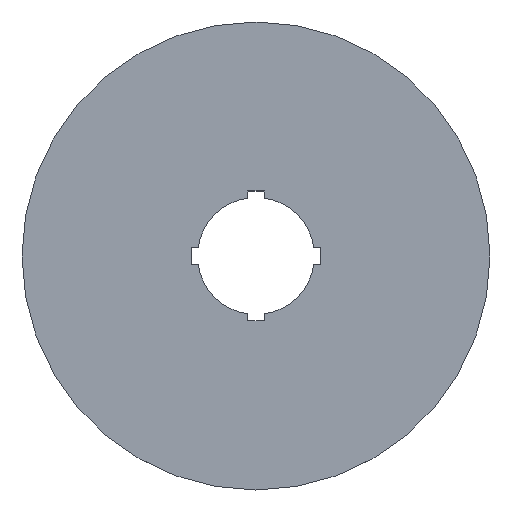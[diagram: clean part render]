
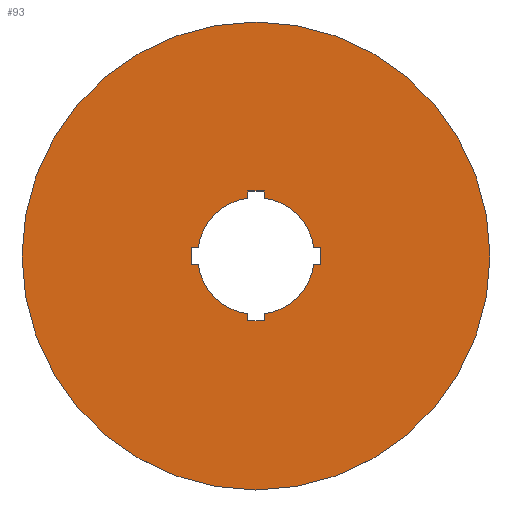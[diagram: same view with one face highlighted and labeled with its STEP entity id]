
A CAD part, top view. The second image highlights one B-rep face of the part: STEP entity #93.
In plain terms, the highlighted planar face has unit normal (0, 0, 1).
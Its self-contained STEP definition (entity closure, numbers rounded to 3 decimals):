
#93 = ADVANCED_FACE( '', ( #132, #133 ), #134, .T. );
#132 = FACE_OUTER_BOUND( '', #174, .T. );
#133 = FACE_BOUND( '', #175, .T. );
#134 = PLANE( '', #176 );
#174 = EDGE_LOOP( '', ( #306, #307 ) );
#175 = EDGE_LOOP( '', ( #308, #309, #310, #311, #312, #313, #314, #315, #316, #317, #318, #319, #320, #321, #322, #323 ) );
#176 = AXIS2_PLACEMENT_3D( '', #324, #325, #326 );
#306 = ORIENTED_EDGE( '', *, *, #400, .F. );
#307 = ORIENTED_EDGE( '', *, *, #351, .F. );
#308 = ORIENTED_EDGE( '', *, *, #352, .F. );
#309 = ORIENTED_EDGE( '', *, *, #398, .F. );
#310 = ORIENTED_EDGE( '', *, *, #395, .F. );
#311 = ORIENTED_EDGE( '', *, *, #392, .F. );
#312 = ORIENTED_EDGE( '', *, *, #389, .F. );
#313 = ORIENTED_EDGE( '', *, *, #386, .F. );
#314 = ORIENTED_EDGE( '', *, *, #383, .F. );
#315 = ORIENTED_EDGE( '', *, *, #380, .F. );
#316 = ORIENTED_EDGE( '', *, *, #377, .F. );
#317 = ORIENTED_EDGE( '', *, *, #374, .F. );
#318 = ORIENTED_EDGE( '', *, *, #371, .F. );
#319 = ORIENTED_EDGE( '', *, *, #368, .F. );
#320 = ORIENTED_EDGE( '', *, *, #365, .F. );
#321 = ORIENTED_EDGE( '', *, *, #362, .F. );
#322 = ORIENTED_EDGE( '', *, *, #359, .F. );
#323 = ORIENTED_EDGE( '', *, *, #356, .F. );
#324 = CARTESIAN_POINT( '', ( 0., 0., 0.8 ) );
#325 = DIRECTION( '', ( 0., 0., 1. ) );
#326 = DIRECTION( '', ( 1., 0., 0. ) );
#351 = EDGE_CURVE( '', #407, #403, #409, .T. );
#352 = EDGE_CURVE( '', #410, #411, #412, .T. );
#356 = EDGE_CURVE( '', #411, #418, #419, .T. );
#359 = EDGE_CURVE( '', #418, #423, #424, .T. );
#362 = EDGE_CURVE( '', #423, #428, #429, .T. );
#365 = EDGE_CURVE( '', #428, #433, #434, .T. );
#368 = EDGE_CURVE( '', #433, #438, #439, .T. );
#371 = EDGE_CURVE( '', #438, #443, #444, .T. );
#374 = EDGE_CURVE( '', #443, #448, #449, .T. );
#377 = EDGE_CURVE( '', #448, #453, #454, .T. );
#380 = EDGE_CURVE( '', #453, #458, #459, .T. );
#383 = EDGE_CURVE( '', #458, #463, #464, .T. );
#386 = EDGE_CURVE( '', #463, #468, #469, .T. );
#389 = EDGE_CURVE( '', #468, #473, #474, .T. );
#392 = EDGE_CURVE( '', #473, #478, #479, .T. );
#395 = EDGE_CURVE( '', #478, #483, #484, .T. );
#398 = EDGE_CURVE( '', #483, #410, #488, .T. );
#400 = EDGE_CURVE( '', #403, #407, #490, .T. );
#403 = VERTEX_POINT( '', #493 );
#407 = VERTEX_POINT( '', #498 );
#409 = CIRCLE( '', #501, 45. );
#410 = VERTEX_POINT( '', #502 );
#411 = VERTEX_POINT( '', #503 );
#412 = LINE( '', #504, #505 );
#418 = VERTEX_POINT( '', #514 );
#419 = CIRCLE( '', #515, 11.25 );
#423 = VERTEX_POINT( '', #520 );
#424 = LINE( '', #521, #522 );
#428 = VERTEX_POINT( '', #528 );
#429 = LINE( '', #529, #530 );
#433 = VERTEX_POINT( '', #536 );
#434 = LINE( '', #537, #538 );
#438 = VERTEX_POINT( '', #544 );
#439 = CIRCLE( '', #545, 11.25 );
#443 = VERTEX_POINT( '', #550 );
#444 = LINE( '', #551, #552 );
#448 = VERTEX_POINT( '', #558 );
#449 = LINE( '', #559, #560 );
#453 = VERTEX_POINT( '', #566 );
#454 = LINE( '', #567, #568 );
#458 = VERTEX_POINT( '', #574 );
#459 = CIRCLE( '', #575, 11.25 );
#463 = VERTEX_POINT( '', #580 );
#464 = LINE( '', #581, #582 );
#468 = VERTEX_POINT( '', #588 );
#469 = LINE( '', #589, #590 );
#473 = VERTEX_POINT( '', #596 );
#474 = LINE( '', #597, #598 );
#478 = VERTEX_POINT( '', #604 );
#479 = CIRCLE( '', #605, 11.25 );
#483 = VERTEX_POINT( '', #610 );
#484 = LINE( '', #611, #612 );
#488 = LINE( '', #618, #619 );
#490 = CIRCLE( '', #622, 45. );
#493 = CARTESIAN_POINT( '', ( 45., 0., 0.8 ) );
#498 = CARTESIAN_POINT( '', ( -45., 0., 0.8 ) );
#501 = AXIS2_PLACEMENT_3D( '', #629, #630, #631 );
#502 = CARTESIAN_POINT( '', ( -12.5, -1.6, 0.8 ) );
#503 = CARTESIAN_POINT( '', ( -11.136, -1.6, 0.8 ) );
#504 = CARTESIAN_POINT( '', ( -12.5, -1.6, 0.8 ) );
#505 = VECTOR( '', #632, 1. );
#514 = CARTESIAN_POINT( '', ( -1.6, -11.136, 0.8 ) );
#515 = AXIS2_PLACEMENT_3D( '', #636, #637, #638 );
#520 = CARTESIAN_POINT( '', ( -1.6, -12.5, 0.8 ) );
#521 = CARTESIAN_POINT( '', ( -1.6, -11.136, 0.8 ) );
#522 = VECTOR( '', #643, 1. );
#528 = CARTESIAN_POINT( '', ( 1.6, -12.5, 0.8 ) );
#529 = CARTESIAN_POINT( '', ( -1.6, -12.5, 0.8 ) );
#530 = VECTOR( '', #646, 1. );
#536 = CARTESIAN_POINT( '', ( 1.6, -11.136, 0.8 ) );
#537 = CARTESIAN_POINT( '', ( 1.6, -12.5, 0.8 ) );
#538 = VECTOR( '', #649, 1. );
#544 = CARTESIAN_POINT( '', ( 11.136, -1.6, 0.8 ) );
#545 = AXIS2_PLACEMENT_3D( '', #652, #653, #654 );
#550 = CARTESIAN_POINT( '', ( 12.5, -1.6, 0.8 ) );
#551 = CARTESIAN_POINT( '', ( 11.136, -1.6, 0.8 ) );
#552 = VECTOR( '', #659, 1. );
#558 = CARTESIAN_POINT( '', ( 12.5, 1.6, 0.8 ) );
#559 = CARTESIAN_POINT( '', ( 12.5, -1.6, 0.8 ) );
#560 = VECTOR( '', #662, 1. );
#566 = CARTESIAN_POINT( '', ( 11.136, 1.6, 0.8 ) );
#567 = CARTESIAN_POINT( '', ( 12.5, 1.6, 0.8 ) );
#568 = VECTOR( '', #665, 1. );
#574 = CARTESIAN_POINT( '', ( 1.6, 11.136, 0.8 ) );
#575 = AXIS2_PLACEMENT_3D( '', #668, #669, #670 );
#580 = CARTESIAN_POINT( '', ( 1.6, 12.5, 0.8 ) );
#581 = CARTESIAN_POINT( '', ( 1.6, 11.136, 0.8 ) );
#582 = VECTOR( '', #675, 1. );
#588 = CARTESIAN_POINT( '', ( -1.6, 12.5, 0.8 ) );
#589 = CARTESIAN_POINT( '', ( 1.6, 12.5, 0.8 ) );
#590 = VECTOR( '', #678, 1. );
#596 = CARTESIAN_POINT( '', ( -1.6, 11.136, 0.8 ) );
#597 = CARTESIAN_POINT( '', ( -1.6, 12.5, 0.8 ) );
#598 = VECTOR( '', #681, 1. );
#604 = CARTESIAN_POINT( '', ( -11.136, 1.6, 0.8 ) );
#605 = AXIS2_PLACEMENT_3D( '', #684, #685, #686 );
#610 = CARTESIAN_POINT( '', ( -12.5, 1.6, 0.8 ) );
#611 = CARTESIAN_POINT( '', ( -11.136, 1.6, 0.8 ) );
#612 = VECTOR( '', #691, 1. );
#618 = CARTESIAN_POINT( '', ( -12.5, 1.6, 0.8 ) );
#619 = VECTOR( '', #694, 1. );
#622 = AXIS2_PLACEMENT_3D( '', #696, #697, #698 );
#629 = CARTESIAN_POINT( '', ( 0., 0., 0.8 ) );
#630 = DIRECTION( '', ( 0., 0., -1. ) );
#631 = DIRECTION( '', ( 1., 0., 0. ) );
#632 = DIRECTION( '', ( 1., 0., 0. ) );
#636 = CARTESIAN_POINT( '', ( 0., 0., 0.8 ) );
#637 = DIRECTION( '', ( 0., 0., 1. ) );
#638 = DIRECTION( '', ( -0.99, -0.142, 0. ) );
#643 = DIRECTION( '', ( 0., -1., 0. ) );
#646 = DIRECTION( '', ( 1., 0., 0. ) );
#649 = DIRECTION( '', ( 0., 1., 0. ) );
#652 = CARTESIAN_POINT( '', ( 0., 0., 0.8 ) );
#653 = DIRECTION( '', ( 0., 0., 1. ) );
#654 = DIRECTION( '', ( 0.142, -0.99, 0. ) );
#659 = DIRECTION( '', ( 1., 0., 0. ) );
#662 = DIRECTION( '', ( 0., 1., 0. ) );
#665 = DIRECTION( '', ( -1., 0., 0. ) );
#668 = CARTESIAN_POINT( '', ( 0., 0., 0.8 ) );
#669 = DIRECTION( '', ( 0., 0., 1. ) );
#670 = DIRECTION( '', ( 0.99, 0.142, 0. ) );
#675 = DIRECTION( '', ( 0., 1., 0. ) );
#678 = DIRECTION( '', ( -1., 0., 0. ) );
#681 = DIRECTION( '', ( 0., -1., 0. ) );
#684 = CARTESIAN_POINT( '', ( 0., 0., 0.8 ) );
#685 = DIRECTION( '', ( 0., 0., 1. ) );
#686 = DIRECTION( '', ( -0.142, 0.99, 0. ) );
#691 = DIRECTION( '', ( -1., 0., 0. ) );
#694 = DIRECTION( '', ( 0., -1., 0. ) );
#696 = CARTESIAN_POINT( '', ( 0., 0., 0.8 ) );
#697 = DIRECTION( '', ( 0., 0., -1. ) );
#698 = DIRECTION( '', ( 1., 0., 0. ) );
